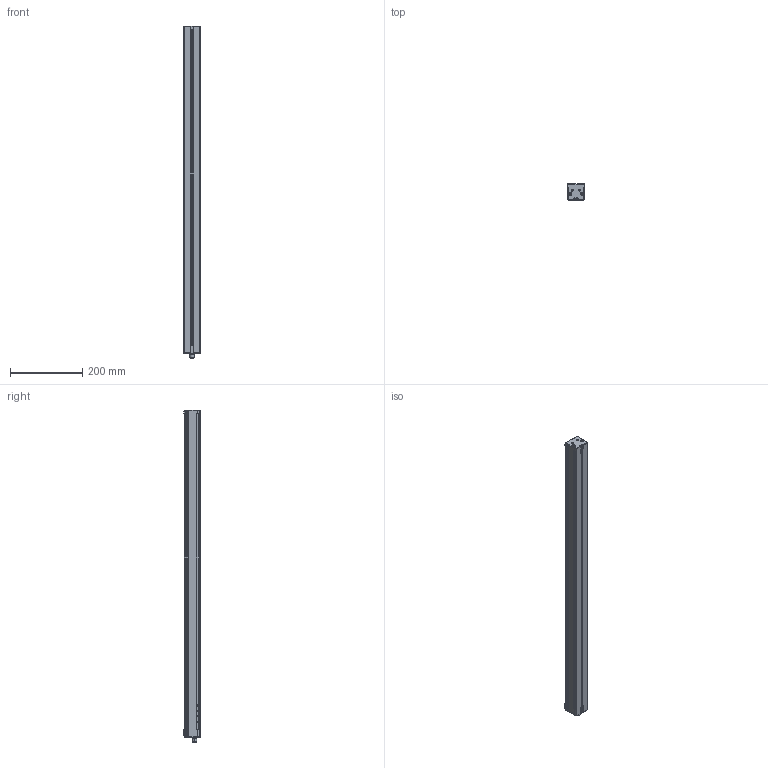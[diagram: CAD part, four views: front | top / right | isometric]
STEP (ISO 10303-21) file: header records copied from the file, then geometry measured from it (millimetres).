
FILE_DESCRIPTION (( 'STEP AP214' ), '1' );
FILE_NAME ('EBAR-HPS-875-xxx-UN_CLIENT.STEP', '2025-11-18T12:00:00', ( '' ), ( '' ), 'SwSTEP 2.0', 'SolidWorks 2025', '' );
FILE_SCHEMA (( 'AUTOMOTIVE_DESIGN' ));
Length unit declared in the file: millimetre
Products named in the file (3): EBAR-HPS-875-xxx-UN_CLIENT; EBAR-HPS-xxx-xxx-xx_CLIENT_875; M4 T-Slot Nut
Assembly tree (13 placements, depth 2):
  EBAR-HPS-875-xxx-UN_CLIENT
    EBAR-HPS-xxx-xxx-xx_CLIENT_875
    M4 T-Slot Nut  x12
Bounding box: 47.63 x 45 x 920.06 mm (x, y, z)
Volume: 1543611.7 mm3; surface area: 221513.4 mm2
Topology: 13 solids, 13 shells, 986 faces, 2564 edges, 1670 vertices
Faces by surface type: plane 484, cylinder 270, bspline 140, torus 62, sphere 16, cone 14
Entity records: 29235 total; most frequent: CARTESIAN_POINT 10271, ORIENTED_EDGE 4098, DIRECTION 3554, EDGE_CURVE 2049, VERTEX_POINT 1329, AXIS2_PLACEMENT_3D 1216, LINE 1122, VECTOR 1122
